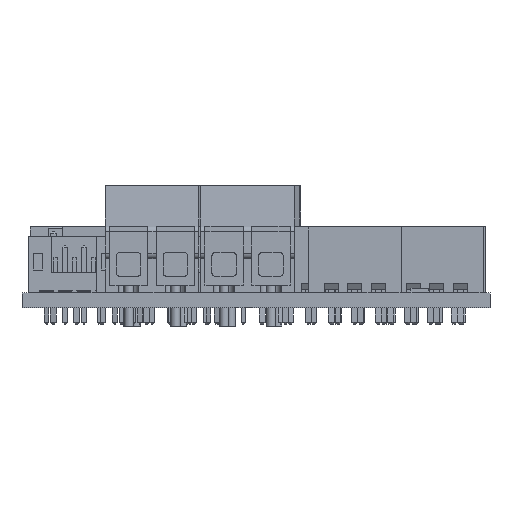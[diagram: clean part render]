
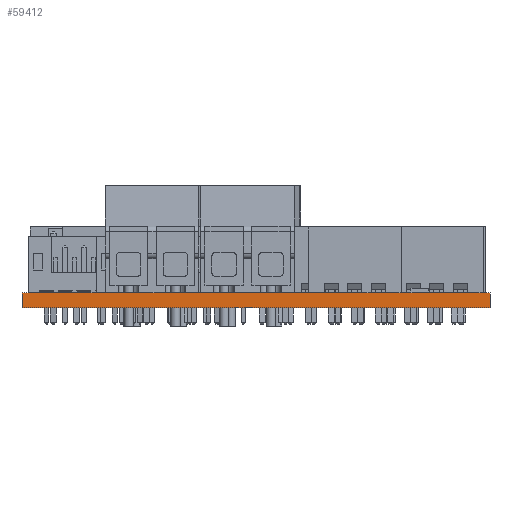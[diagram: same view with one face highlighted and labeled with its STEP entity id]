
A CAD part, front view. The second image highlights one B-rep face of the part: STEP entity #59412.
In plain terms, the highlighted planar face has unit normal (0, -1, 0).
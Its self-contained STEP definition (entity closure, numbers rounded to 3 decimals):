
#59412 = ADVANCED_FACE('',(#59413),#59427,.T.);
#59413 = FACE_BOUND('',#59414,.T.);
#59414 = EDGE_LOOP('',(#59415,#59450,#59478,#59506));
#59415 = ORIENTED_EDGE('',*,*,#59416,.T.);
#59416 = EDGE_CURVE('',#59417,#59419,#59421,.T.);
#59417 = VERTEX_POINT('',#59418);
#59418 = CARTESIAN_POINT('',(90.,-70.,0.));
#59419 = VERTEX_POINT('',#59420);
#59420 = CARTESIAN_POINT('',(90.,-70.,1.6));
#59421 = SURFACE_CURVE('',#59422,(#59426,#59438),.PCURVE_S1.);
#59422 = LINE('',#59423,#59424);
#59423 = CARTESIAN_POINT('',(90.,-70.,0.));
#59424 = VECTOR('',#59425,1.);
#59425 = DIRECTION('',(0.,0.,1.));
#59426 = PCURVE('',#59427,#59432);
#59427 = PLANE('',#59428);
#59428 = AXIS2_PLACEMENT_3D('',#59429,#59430,#59431);
#59429 = CARTESIAN_POINT('',(90.,-70.,0.));
#59430 = DIRECTION('',(0.,-1.,0.));
#59431 = DIRECTION('',(-1.,0.,0.));
#59432 = DEFINITIONAL_REPRESENTATION('',(#59433),#59437);
#59433 = LINE('',#59434,#59435);
#59434 = CARTESIAN_POINT('',(0.,-0.));
#59435 = VECTOR('',#59436,1.);
#59436 = DIRECTION('',(0.,-1.));
#59437 = ( GEOMETRIC_REPRESENTATION_CONTEXT(2) 
PARAMETRIC_REPRESENTATION_CONTEXT() REPRESENTATION_CONTEXT('2D SPACE',''
  ) );
#59438 = PCURVE('',#59439,#59444);
#59439 = PLANE('',#59440);
#59440 = AXIS2_PLACEMENT_3D('',#59441,#59442,#59443);
#59441 = CARTESIAN_POINT('',(90.,-20.,0.));
#59442 = DIRECTION('',(1.,0.,-0.));
#59443 = DIRECTION('',(0.,-1.,0.));
#59444 = DEFINITIONAL_REPRESENTATION('',(#59445),#59449);
#59445 = LINE('',#59446,#59447);
#59446 = CARTESIAN_POINT('',(50.,0.));
#59447 = VECTOR('',#59448,1.);
#59448 = DIRECTION('',(0.,-1.));
#59449 = ( GEOMETRIC_REPRESENTATION_CONTEXT(2) 
PARAMETRIC_REPRESENTATION_CONTEXT() REPRESENTATION_CONTEXT('2D SPACE',''
  ) );
#59450 = ORIENTED_EDGE('',*,*,#59451,.T.);
#59451 = EDGE_CURVE('',#59419,#59452,#59454,.T.);
#59452 = VERTEX_POINT('',#59453);
#59453 = CARTESIAN_POINT('',(40.,-70.,1.6));
#59454 = SURFACE_CURVE('',#59455,(#59459,#59466),.PCURVE_S1.);
#59455 = LINE('',#59456,#59457);
#59456 = CARTESIAN_POINT('',(90.,-70.,1.6));
#59457 = VECTOR('',#59458,1.);
#59458 = DIRECTION('',(-1.,0.,0.));
#59459 = PCURVE('',#59427,#59460);
#59460 = DEFINITIONAL_REPRESENTATION('',(#59461),#59465);
#59461 = LINE('',#59462,#59463);
#59462 = CARTESIAN_POINT('',(0.,-1.6));
#59463 = VECTOR('',#59464,1.);
#59464 = DIRECTION('',(1.,0.));
#59465 = ( GEOMETRIC_REPRESENTATION_CONTEXT(2) 
PARAMETRIC_REPRESENTATION_CONTEXT() REPRESENTATION_CONTEXT('2D SPACE',''
  ) );
#59466 = PCURVE('',#59467,#59472);
#59467 = PLANE('',#59468);
#59468 = AXIS2_PLACEMENT_3D('',#59469,#59470,#59471);
#59469 = CARTESIAN_POINT('',(65.,-45.,1.6));
#59470 = DIRECTION('',(-0.,-0.,-1.));
#59471 = DIRECTION('',(-1.,0.,0.));
#59472 = DEFINITIONAL_REPRESENTATION('',(#59473),#59477);
#59473 = LINE('',#59474,#59475);
#59474 = CARTESIAN_POINT('',(-25.,-25.));
#59475 = VECTOR('',#59476,1.);
#59476 = DIRECTION('',(1.,0.));
#59477 = ( GEOMETRIC_REPRESENTATION_CONTEXT(2) 
PARAMETRIC_REPRESENTATION_CONTEXT() REPRESENTATION_CONTEXT('2D SPACE',''
  ) );
#59478 = ORIENTED_EDGE('',*,*,#59479,.F.);
#59479 = EDGE_CURVE('',#59480,#59452,#59482,.T.);
#59480 = VERTEX_POINT('',#59481);
#59481 = CARTESIAN_POINT('',(40.,-70.,0.));
#59482 = SURFACE_CURVE('',#59483,(#59487,#59494),.PCURVE_S1.);
#59483 = LINE('',#59484,#59485);
#59484 = CARTESIAN_POINT('',(40.,-70.,0.));
#59485 = VECTOR('',#59486,1.);
#59486 = DIRECTION('',(0.,0.,1.));
#59487 = PCURVE('',#59427,#59488);
#59488 = DEFINITIONAL_REPRESENTATION('',(#59489),#59493);
#59489 = LINE('',#59490,#59491);
#59490 = CARTESIAN_POINT('',(50.,0.));
#59491 = VECTOR('',#59492,1.);
#59492 = DIRECTION('',(0.,-1.));
#59493 = ( GEOMETRIC_REPRESENTATION_CONTEXT(2) 
PARAMETRIC_REPRESENTATION_CONTEXT() REPRESENTATION_CONTEXT('2D SPACE',''
  ) );
#59494 = PCURVE('',#59495,#59500);
#59495 = PLANE('',#59496);
#59496 = AXIS2_PLACEMENT_3D('',#59497,#59498,#59499);
#59497 = CARTESIAN_POINT('',(40.,-70.,0.));
#59498 = DIRECTION('',(-1.,0.,0.));
#59499 = DIRECTION('',(0.,1.,0.));
#59500 = DEFINITIONAL_REPRESENTATION('',(#59501),#59505);
#59501 = LINE('',#59502,#59503);
#59502 = CARTESIAN_POINT('',(0.,0.));
#59503 = VECTOR('',#59504,1.);
#59504 = DIRECTION('',(0.,-1.));
#59505 = ( GEOMETRIC_REPRESENTATION_CONTEXT(2) 
PARAMETRIC_REPRESENTATION_CONTEXT() REPRESENTATION_CONTEXT('2D SPACE',''
  ) );
#59506 = ORIENTED_EDGE('',*,*,#59507,.F.);
#59507 = EDGE_CURVE('',#59417,#59480,#59508,.T.);
#59508 = SURFACE_CURVE('',#59509,(#59513,#59520),.PCURVE_S1.);
#59509 = LINE('',#59510,#59511);
#59510 = CARTESIAN_POINT('',(90.,-70.,0.));
#59511 = VECTOR('',#59512,1.);
#59512 = DIRECTION('',(-1.,0.,0.));
#59513 = PCURVE('',#59427,#59514);
#59514 = DEFINITIONAL_REPRESENTATION('',(#59515),#59519);
#59515 = LINE('',#59516,#59517);
#59516 = CARTESIAN_POINT('',(0.,-0.));
#59517 = VECTOR('',#59518,1.);
#59518 = DIRECTION('',(1.,0.));
#59519 = ( GEOMETRIC_REPRESENTATION_CONTEXT(2) 
PARAMETRIC_REPRESENTATION_CONTEXT() REPRESENTATION_CONTEXT('2D SPACE',''
  ) );
#59520 = PCURVE('',#59521,#59526);
#59521 = PLANE('',#59522);
#59522 = AXIS2_PLACEMENT_3D('',#59523,#59524,#59525);
#59523 = CARTESIAN_POINT('',(65.,-45.,0.));
#59524 = DIRECTION('',(-0.,-0.,-1.));
#59525 = DIRECTION('',(-1.,0.,0.));
#59526 = DEFINITIONAL_REPRESENTATION('',(#59527),#59531);
#59527 = LINE('',#59528,#59529);
#59528 = CARTESIAN_POINT('',(-25.,-25.));
#59529 = VECTOR('',#59530,1.);
#59530 = DIRECTION('',(1.,0.));
#59531 = ( GEOMETRIC_REPRESENTATION_CONTEXT(2) 
PARAMETRIC_REPRESENTATION_CONTEXT() REPRESENTATION_CONTEXT('2D SPACE',''
  ) );
